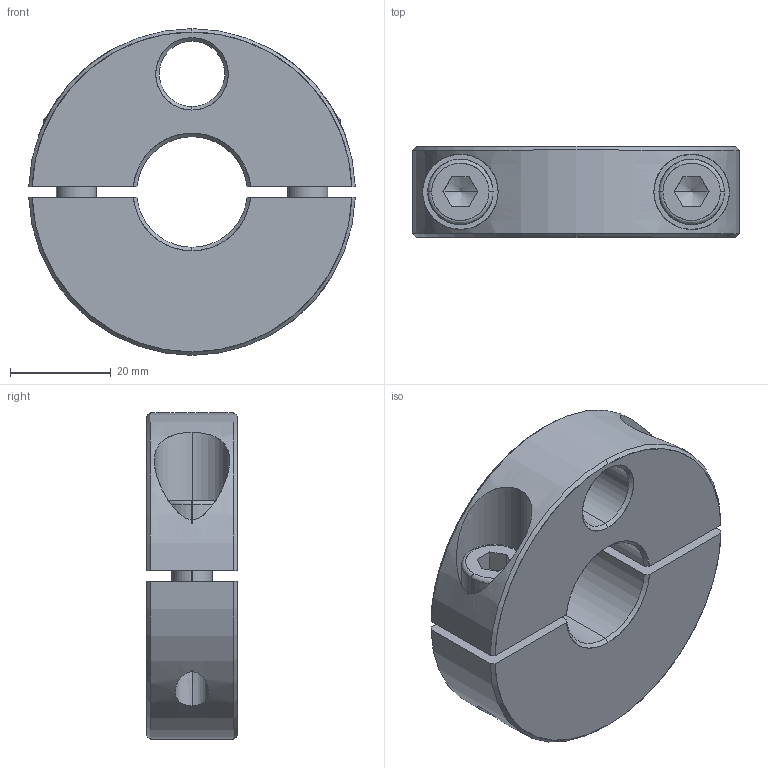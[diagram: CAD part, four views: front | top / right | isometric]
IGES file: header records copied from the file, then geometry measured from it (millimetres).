
Start section: SolidWorks IGES FILE using analytic representation for surfaces
Global section: file name: C:\WIX2\Positioning\3865\3865W122.igs; native system: SolidWorks 2003 by SolidWorks Corporation; preprocessor: Version 5.3; author: Joan; date: 030722.173005; units: millimetre
Bounding box: 64.97 x 18 x 65 mm (x, y, z)
Surface area: 16874 mm2 (no closed solid volume)
Topology: 0 solids, 0 shells, 98 faces, 1668 edges, 1664 vertices
Faces by surface type: revolution 64, bspline 34
